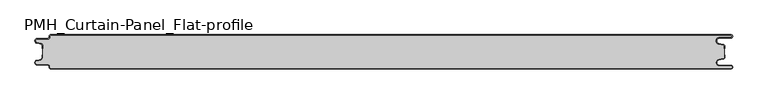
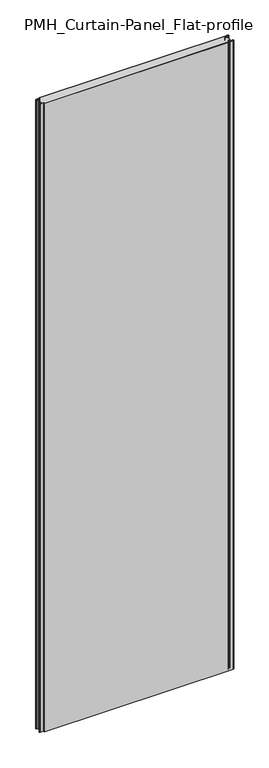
"""IFC4 building model written with IfcOpenShell, lengths in millimetres: plate geometry, PMH_Curtain-Panel_Flat-profile : ACH_PMH_Stone-wool-Panel_50M."""

from ifc_helpers import new_model, si_unit, point, frame, frame_2d, origin, origin_with_axes, place, context, project, spatial, polyline, circle_curve, trimmed, segment, composite_curve, outline, extrude, source, transform, mapped, element, save
from ifc_brep_helpers import plane_surface, cylinder_surface, revolved_surface, advanced_brep


def pmh_curtain_panel_flat_profile_783773f9(model_context):
    return source(origin(), model_context, "Body", "SolidModel", [
        advanced_brep(
        [(508.1, 0.0, 3500.0), (-487.4, 0.0, 3500.0), (-489.4, -2.0, 3500.0), (-489.4, -3.4, 3500.0), (-491.4, -5.4, 3500.0), (-506.9, -5.4, 3500.0), (-507.7098239, -12.5077322, 3500.0), (-501.5500979, -13.929817, 3500.0), (-500.0, -15.878557, 3500.0), (-500.0, -20.0, 3500.0), (-499.2, -20.0, 3500.0), (-499.2, -15.878557, 3500.0), (-501.370137, -13.1503208, 3500.0), (-507.529863, -11.728236, 3500.0), (-506.9, -6.2, 3500.0), (-491.4, -6.2, 3500.0), (-488.6, -3.4, 3500.0), (-488.6, -2.0, 3500.0), (-487.4, -0.8, 3500.0), (508.1, -0.8, 3500.0), (508.1, -4.2, 3500.0), (491.1, -4.2, 3500.0), (490.2664884, -13.7270771, 3500.0), (496.7125669, -14.8636953, 3500.0), (498.2, -16.6363492, 3500.0), (498.2, -20.0, 3500.0), (499.0, -20.0, 3500.0), (499.0, -16.6363492, 3500.0), (496.8514855, -14.0758491, 3500.0), (490.405407, -12.939231, 3500.0), (491.1, -5.0, 3500.0), (508.1, -5.0, 3500.0), (510.6, -2.5000002, 3500.0), (-487.4, 0.0, 0.0), (508.1, 0.0, 0.0), (510.6, -2.4999998, 0.0), (508.1, -5.0, 0.0), (491.1, -5.0, 0.0), (490.405407, -12.939231, 0.0), (496.8514855, -14.0758491, 0.0), (499.0, -16.6363492, 0.0), (499.0, -20.0, 0.0), (498.2, -20.0, 0.0), (498.2, -16.6363492, 0.0), (496.7125669, -14.8636953, 0.0), (490.2664884, -13.7270771, 0.0), (491.1, -4.2, 0.0), (508.1, -4.2, 0.0), (508.1, -0.8, 0.0), (-487.4, -0.8, 0.0), (-488.6, -2.0, 0.0), (-488.6, -3.4, 0.0), (-491.4, -6.2, 0.0), (-506.9, -6.2, 0.0), (-507.529863, -11.7282362, 0.0), (-501.370137, -13.150321, 0.0), (-499.2, -15.878557, 0.0), (-499.2, -20.0, 0.0), (-500.0, -20.0, 0.0), (-500.0, -15.878557, 0.0), (-501.5500978, -13.9298169, 0.0), (-507.7098239, -12.507732, 0.0), (-506.9, -5.4, 0.0), (-491.4, -5.4, 0.0), (-489.4, -3.4, 0.0), (-489.4, -2.0, 0.0)],
        [
            (0, 1),
            (1, 2, circle_curve(frame((-487.4, -2.0, 3500.0), z_axis=(0.0, 0.0, 1.0), x_axis=(1.0, 0.0, 0.0)), 2.0)),
            (2, 3),
            (3, 4, circle_curve(frame((-491.4, -3.4, 3500.0), z_axis=(0.0, 0.0, -1.0), x_axis=(1.0, 0.0, 0.0)), 2.0)),
            (4, 5),
            (5, 6, circle_curve(frame((-506.9, -9.0, 3500.0), z_axis=(0.0, 0.0, 1.0), x_axis=(1.0, 0.0, 0.0)), 3.6)),
            (6, 7),
            (7, 8, circle_curve(frame((-502.0, -15.878557, 3500.0), z_axis=(0.0, 0.0, -1.0), x_axis=(1.0, 0.0, 0.0)), 2.0)),
            (8, 9),
            (9, 10),
            (10, 11),
            (11, 12, circle_curve(frame((-502.0, -15.878557, 3500.0), z_axis=(0.0, 0.0, 1.0), x_axis=(1.0, 0.0, 0.0)), 2.8)),
            (12, 13),
            (13, 14, circle_curve(frame((-506.9, -9.0, 3500.0), z_axis=(0.0, 0.0, -1.0), x_axis=(1.0, 0.0, 0.0)), 2.8)),
            (14, 15),
            (15, 16, circle_curve(frame((-491.4, -3.4, 3500.0), z_axis=(0.0, 0.0, 1.0), x_axis=(1.0, 0.0, 0.0)), 2.8)),
            (16, 17),
            (17, 18, circle_curve(frame((-487.4, -2.0, 3500.0), z_axis=(0.0, 0.0, -1.0), x_axis=(1.0, 0.0, 0.0)), 1.2)),
            (18, 19),
            (19, 20, circle_curve(frame((508.1, -2.5, 3500.0), z_axis=(0.0, 0.0, -1.0), x_axis=(1.0, 0.0, 0.0)), 1.7)),
            (20, 21),
            (21, 22, circle_curve(frame((491.1, -9.0, 3500.0), z_axis=(0.0, 0.0, 1.0), x_axis=(1.0, 0.0, 0.0)), 4.8)),
            (22, 23),
            (23, 24, circle_curve(frame((496.4, -16.6363492, 3500.0), z_axis=(0.0, 0.0, -1.0), x_axis=(1.0, 0.0, 0.0)), 1.8)),
            (24, 25),
            (25, 26),
            (26, 27),
            (27, 28, circle_curve(frame((496.4, -16.6363492, 3500.0), z_axis=(0.0, 0.0, 1.0), x_axis=(1.0, 0.0, 0.0)), 2.6)),
            (28, 29),
            (29, 30, circle_curve(frame((491.1, -9.0, 3500.0), z_axis=(0.0, 0.0, -1.0), x_axis=(1.0, 0.0, 0.0)), 4.0)),
            (30, 31),
            (31, 32, circle_curve(frame((508.1, -2.5, 3500.0), z_axis=(0.0, 0.0, 1.0), x_axis=(1.0, 0.0, 0.0)), 2.5)),
            (32, 0, circle_curve(frame((508.1, -2.5, 3500.0), z_axis=(0.0, 0.0, 1.0), x_axis=(1.0, 0.0, 0.0)), 2.5)),
            (33, 34),
            (34, 35, circle_curve(frame((508.1, -2.5, 0.0), z_axis=(0.0, 0.0, -1.0), x_axis=(1.0, 0.0, 0.0)), 2.5)),
            (35, 36, circle_curve(frame((508.1, -2.5, 0.0), z_axis=(0.0, 0.0, -1.0), x_axis=(1.0, 0.0, 0.0)), 2.5)),
            (36, 37),
            (37, 38, circle_curve(frame((491.1, -9.0, 0.0), z_axis=(0.0, 0.0, 1.0), x_axis=(1.0, 0.0, 0.0)), 4.0)),
            (38, 39),
            (39, 40, circle_curve(frame((496.4, -16.6363492, 0.0), z_axis=(0.0, 0.0, -1.0), x_axis=(1.0, 0.0, 0.0)), 2.6)),
            (40, 41),
            (41, 42),
            (42, 43),
            (43, 44, circle_curve(frame((496.4, -16.6363492, 0.0), z_axis=(0.0, 0.0, 1.0), x_axis=(1.0, 0.0, 0.0)), 1.8)),
            (44, 45),
            (45, 46, circle_curve(frame((491.1, -9.0, 0.0), z_axis=(0.0, 0.0, -1.0), x_axis=(1.0, 0.0, 0.0)), 4.8)),
            (46, 47),
            (47, 48, circle_curve(frame((508.1, -2.5, 0.0), z_axis=(0.0, 0.0, 1.0), x_axis=(1.0, 0.0, 0.0)), 1.7)),
            (48, 49),
            (49, 50, circle_curve(frame((-487.4, -2.0, 0.0), z_axis=(0.0, 0.0, 1.0), x_axis=(1.0, 0.0, 0.0)), 1.2)),
            (50, 51),
            (51, 52, circle_curve(frame((-491.4, -3.4, 0.0), z_axis=(0.0, 0.0, -1.0), x_axis=(1.0, 0.0, 0.0)), 2.8)),
            (52, 53),
            (53, 54, circle_curve(frame((-506.9, -9.0, 0.0), z_axis=(0.0, 0.0, 1.0), x_axis=(1.0, 0.0, 0.0)), 2.8)),
            (54, 55),
            (55, 56, circle_curve(frame((-502.0, -15.878557, 0.0), z_axis=(0.0, 0.0, -1.0), x_axis=(1.0, 0.0, 0.0)), 2.8)),
            (56, 57),
            (57, 58),
            (58, 59),
            (59, 60, circle_curve(frame((-502.0, -15.878557, 0.0), z_axis=(0.0, 0.0, 1.0), x_axis=(1.0, 0.0, 0.0)), 2.0)),
            (60, 61),
            (61, 62, circle_curve(frame((-506.9, -9.0, 0.0), z_axis=(0.0, 0.0, -1.0), x_axis=(1.0, 0.0, 0.0)), 3.6)),
            (62, 63),
            (63, 64, circle_curve(frame((-491.4, -3.4, 0.0), z_axis=(0.0, 0.0, 1.0), x_axis=(1.0, 0.0, 0.0)), 2.0)),
            (64, 65),
            (65, 33, circle_curve(frame((-487.4, -2.0, 0.0), z_axis=(0.0, 0.0, -1.0), x_axis=(1.0, 0.0, 0.0)), 2.0)),
            (1, 33),
            (65, 2),
            (64, 3),
            (63, 4),
            (62, 5),
            (61, 6),
            (60, 7),
            (59, 8),
            (58, 9),
            (57, 10),
            (56, 11),
            (55, 12),
            (54, 13),
            (53, 14),
            (52, 15),
            (51, 16),
            (50, 17),
            (49, 18),
            (48, 19),
            (47, 20),
            (46, 21),
            (45, 22),
            (44, 23),
            (43, 24),
            (42, 25),
            (41, 26),
            (40, 27),
            (39, 28),
            (38, 29),
            (37, 30),
            (36, 31),
            (34, 0),
        ],
        [
            plane_surface(frame((-500.0, 0.0, 3500.0), z_axis=(0.0, 0.0, 1.0), x_axis=(0.0, 1.0, 0.0))),
            plane_surface(frame((-500.0, 0.0, 0.0), z_axis=(0.0, 0.0, -1.0), x_axis=(0.0, 1.0, 0.0))),
            cylinder_surface(frame((-487.4, -2.0, 3500.0), z_axis=(0.0, 0.0, 1.0), x_axis=(1.0, 0.0, 0.0)), 2.0),
            plane_surface(frame((-489.4, -2.0, 3500.0), z_axis=(-1.0, 0.0, 0.0), x_axis=(0.0, 0.0, -1.0))),
            revolved_surface(polyline([(-489.4, -3.4, 0.0), (-489.4, -3.4, 3500.0)]), (-491.4, -3.4, 3500.0), (0.0, 0.0, -1.0)),
            plane_surface(frame((-491.4, -5.4, 3500.0), z_axis=(0.0, 1.0, 0.0), x_axis=(0.0, 0.0, -1.0))),
            cylinder_surface(frame((-506.9, -9.0, 3500.0), z_axis=(0.0, 0.0, 1.0), x_axis=(1.0, 0.0, 0.0)), 3.6),
            plane_surface(frame((-507.7098239, -12.507732, 3500.0), z_axis=(-0.2249510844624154, -0.9743700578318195, 0.0), x_axis=(0.0, 0.0, -1.0))),
            revolved_surface(polyline([(-500.0, -15.878557, 0.0), (-500.0, -15.878557, 3500.0)]), (-502.0, -15.878557, 3500.0), (0.0, 0.0, -1.0)),
            plane_surface(frame((-500.0, -15.878557, 3500.0), z_axis=(-1.0, 0.0, 0.0), x_axis=(0.0, 0.0, -1.0))),
            plane_surface(frame((-500.0, -20.0, 3500.0), z_axis=(0.0, -1.0, 0.0), x_axis=(0.0, 0.0, -1.0))),
            plane_surface(frame((-499.2, -20.0, 3500.0), z_axis=(1.0, 0.0, 0.0), x_axis=(0.0, 0.0, -1.0))),
            cylinder_surface(frame((-502.0, -15.878557, 3500.0), z_axis=(0.0, 0.0, 1.0), x_axis=(1.0, 0.0, 0.0)), 2.8),
            plane_surface(frame((-501.370137, -13.150321, 3500.0), z_axis=(0.22495108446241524, 0.9743700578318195, 0.0), x_axis=(0.0, 0.0, -1.0))),
            revolved_surface(polyline([(-504.09999999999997, -9.0, 0.0), (-504.09999999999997, -9.0, 3500.0)]), (-506.9, -9.0, 3500.0), (0.0, 0.0, -1.0)),
            plane_surface(frame((-506.9, -6.2, 3500.0), z_axis=(0.0, -1.0, 0.0), x_axis=(0.0, 0.0, -1.0))),
            cylinder_surface(frame((-491.4, -3.4, 3500.0), z_axis=(0.0, 0.0, 1.0), x_axis=(1.0, 0.0, 0.0)), 2.8),
            plane_surface(frame((-488.6, -3.4, 3500.0), z_axis=(1.0, 0.0, 0.0), x_axis=(0.0, 0.0, -1.0))),
            revolved_surface(polyline([(-486.2, -2.0, 0.0), (-486.2, -2.0, 3500.0)]), (-487.4, -2.0, 3500.0), (0.0, 0.0, -1.0)),
            plane_surface(frame((-487.4, -0.8, 3500.0), z_axis=(0.0, -1.0, 0.0), x_axis=(0.0, 0.0, -1.0))),
            revolved_surface(polyline([(509.8, -2.5, 0.0), (509.8, -2.5, 3500.0)]), (508.1, -2.5, 3500.0), (0.0, 0.0, -1.0)),
            plane_surface(frame((508.1, -4.2, 3500.0), z_axis=(0.0, 1.0, 0.0), x_axis=(0.0, 0.0, -1.0))),
            cylinder_surface(frame((491.1, -9.0, 3500.0), z_axis=(0.0, 0.0, 1.0), x_axis=(1.0, 0.0, 0.0)), 4.8),
            plane_surface(frame((490.2664884, -13.7270771, 3500.0), z_axis=(-0.17364826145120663, -0.984807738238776, 0.0), x_axis=(0.0, 0.0, -1.0))),
            revolved_surface(polyline([(498.2, -16.6363492, 0.0), (498.2, -16.6363492, 3500.0)]), (496.4, -16.6363492, 3500.0), (0.0, 0.0, -1.0)),
            plane_surface(frame((498.2, -16.6363492, 3500.0), z_axis=(-1.0, 0.0, 0.0), x_axis=(0.0, 0.0, -1.0))),
            plane_surface(frame((498.2, -20.0, 3500.0), z_axis=(0.0, -1.0, 0.0), x_axis=(0.0, 0.0, -1.0))),
            plane_surface(frame((499.0, -20.0, 3500.0), z_axis=(1.0, 0.0, 0.0), x_axis=(0.0, 0.0, -1.0))),
            cylinder_surface(frame((496.4, -16.6363492, 3500.0), z_axis=(0.0, 0.0, 1.0), x_axis=(1.0, 0.0, 0.0)), 2.6),
            plane_surface(frame((496.8514855, -14.0758491, 3500.0), z_axis=(0.17364826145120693, 0.9848077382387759, 0.0), x_axis=(0.0, 0.0, -1.0))),
            revolved_surface(polyline([(495.1, -9.0, 0.0), (495.1, -9.0, 3500.0)]), (491.1, -9.0, 3500.0), (0.0, 0.0, -1.0)),
            plane_surface(frame((491.1, -5.0, 3500.0), z_axis=(0.0, -1.0, 0.0), x_axis=(0.0, 0.0, -1.0))),
            cylinder_surface(frame((508.1, -2.5, 3500.0), z_axis=(0.0, 0.0, 1.0), x_axis=(1.0, 0.0, 0.0)), 2.5),
            plane_surface(frame((490.5783588, 0.0, 3500.0), z_axis=(0.0, 1.0, 0.0), x_axis=(0.0, 0.0, -1.0))),
        ],
        [
            (0, [[1, 2, 3, 4, 5, 6, 7, 8, 9, 10, 11, 12, 13, 14, 15, 16, 17, 18, 19, 20, 21, 22, 23, 24, 25, 26, 27, 28, 29, 30, 31, 32, 33]]),
            (1, [[34, 35, 36, 37, 38, 39, 40, 41, 42, 43, 44, 45, 46, 47, 48, 49, 50, 51, 52, 53, 54, 55, 56, 57, 58, 59, 60, 61, 62, 63, 64, 65, 66]]),
            (2, [[-2, 67, -66, 68]]),
            (3, [[-3, -68, -65, 69]]),
            (4, [[-4, -69, -64, 70]]),
            (5, [[-5, -70, -63, 71]]),
            (6, [[-6, -71, -62, 72]]),
            (7, [[-7, -72, -61, 73]]),
            (8, [[-8, -73, -60, 74]]),
            (9, [[-9, -74, -59, 75]]),
            (10, [[-10, -75, -58, 76]]),
            (11, [[-11, -76, -57, 77]]),
            (12, [[-12, -77, -56, 78]]),
            (13, [[-13, -78, -55, 79]]),
            (14, [[-14, -79, -54, 80]]),
            (15, [[-15, -80, -53, 81]]),
            (16, [[-16, -81, -52, 82]]),
            (17, [[-17, -82, -51, 83]]),
            (18, [[-18, -83, -50, 84]]),
            (19, [[-19, -84, -49, 85]]),
            (20, [[-20, -85, -48, 86]]),
            (21, [[-21, -86, -47, 87]]),
            (22, [[-22, -87, -46, 88]]),
            (23, [[-23, -88, -45, 89]]),
            (24, [[-24, -89, -44, 90]]),
            (25, [[-25, -90, -43, 91]]),
            (26, [[-26, -91, -42, 92]]),
            (27, [[-27, -92, -41, 93]]),
            (28, [[-28, -93, -40, 94]]),
            (29, [[-29, -94, -39, 95]]),
            (30, [[-30, -95, -38, 96]]),
            (31, [[-31, -96, -37, 97]]),
            (32, [[-97, -36, -35, 98, -33, -32]]),
            (33, [[-1, -98, -34, -67]]),
        ],
    ),
        extrude(outline(composite_curve([segment(polyline([(-499.2, -34.1214426), (-499.2, -15.8785573)]), True, "CONTINUOUS"), segment(trimmed(circle_curve(frame_2d((-502.0, -15.8785573)), 2.8), [point((-499.2, -15.8785573))], [point((-501.370137, -13.1503212))], True, "CARTESIAN"), True, "CONTINUOUS"), segment(polyline([(-501.370137, -13.1503212), (-507.5298631, -11.7282362)]), True, "CONTINUOUS"), segment(trimmed(circle_curve(frame_2d((-506.9, -9.0)), 2.8), [point((-507.5298631, -11.7282362))], [point((-506.9, -6.2))], False, "CARTESIAN"), True, "CONTINUOUS"), segment(polyline([(-506.9, -6.2), (-491.4000001, -6.2)]), True, "CONTINUOUS"), segment(trimmed(circle_curve(frame_2d((-491.4000001, -3.4)), 2.8), [point((-491.4000001, -6.2))], [point((-488.6000001, -3.4))], True, "CARTESIAN"), True, "CONTINUOUS"), segment(polyline([(-488.6000001, -3.4), (-488.6000001, -2.0)]), True, "CONTINUOUS"), segment(trimmed(circle_curve(frame_2d((-487.4000001, -2.0)), 1.2), [point((-488.6000001, -2.0))], [point((-487.4000001, -0.8))], False, "CARTESIAN"), True, "CONTINUOUS"), segment(polyline([(-487.4000001, -0.8), (508.1, -0.8)]), True, "CONTINUOUS"), segment(trimmed(circle_curve(frame_2d((508.1, -2.5)), 1.7), [point((508.1, -0.8))], [point((508.1, -4.2))], False, "CARTESIAN"), True, "CONTINUOUS"), segment(polyline([(508.1, -4.2), (491.1, -4.2)]), True, "CONTINUOUS"), segment(trimmed(circle_curve(frame_2d((491.1, -9.0)), 4.8), [point((491.1, -4.2))], [point((490.2664883, -13.7270771))], True, "CARTESIAN"), True, "CONTINUOUS"), segment(polyline([(490.2664883, -13.7270771), (496.7125668, -14.8636953)]), True, "CONTINUOUS"), segment(trimmed(circle_curve(frame_2d((496.4, -16.6363492)), 1.8), [point((496.7125668, -14.8636953))], [point((498.2, -16.6363492))], False, "CARTESIAN"), True, "CONTINUOUS"), segment(polyline([(498.2, -16.6363492), (498.2, -33.3636508)]), True, "CONTINUOUS"), segment(trimmed(circle_curve(frame_2d((496.4, -33.3636508)), 1.8), [point((498.2, -33.3636508))], [point((496.7125668, -35.1363047))], False, "CARTESIAN"), True, "CONTINUOUS"), segment(polyline([(496.7125668, -35.1363047), (490.2664883, -36.2729229)]), True, "CONTINUOUS"), segment(trimmed(circle_curve(frame_2d((491.1, -41.0)), 4.8), [point((490.2664883, -36.2729229))], [point((491.1, -45.8))], True, "CARTESIAN"), True, "CONTINUOUS"), segment(polyline([(491.1, -45.8), (508.1, -45.8)]), True, "CONTINUOUS"), segment(trimmed(circle_curve(frame_2d((508.1, -47.5)), 1.7), [point((508.1, -45.8))], [point((508.1, -49.2))], False, "CARTESIAN"), True, "CONTINUOUS"), segment(polyline([(508.1, -49.2), (-487.4000001, -49.2)]), True, "CONTINUOUS"), segment(trimmed(circle_curve(frame_2d((-487.4000001, -48.0)), 1.2), [point((-487.4000001, -49.2))], [point((-488.6000001, -48.0))], False, "CARTESIAN"), True, "CONTINUOUS"), segment(polyline([(-488.6000001, -48.0), (-488.6000001, -46.6)]), True, "CONTINUOUS"), segment(trimmed(circle_curve(frame_2d((-491.4000001, -46.6)), 2.8), [point((-488.6000001, -46.6))], [point((-491.4000001, -43.8))], True, "CARTESIAN"), True, "CONTINUOUS"), segment(polyline([(-491.4000001, -43.8), (-506.9, -43.8)]), True, "CONTINUOUS"), segment(trimmed(circle_curve(frame_2d((-506.9, -41.0)), 2.8), [point((-506.9, -43.8))], [point((-507.5298631, -38.2717638))], False, "CARTESIAN"), True, "CONTINUOUS"), segment(polyline([(-507.5298631, -38.2717638), (-501.370137, -36.8496788)]), True, "CONTINUOUS"), segment(trimmed(circle_curve(frame_2d((-502.0, -34.1214426)), 2.8), [point((-501.370137, -36.8496788))], [point((-499.2, -34.1214426))], True, "CARTESIAN"), True, "CONTINUOUS")], self_intersect=False)), origin_with_axes(), (0.0, 0.0, 1.0), 3500.0),
        advanced_brep(
        [(-487.4, -50.0, 3500.0), (508.1, -50.0, 3500.0), (510.6, -47.5000002, 3500.0), (508.1, -45.0, 3500.0), (491.1, -45.0, 3500.0), (490.405407, -37.060769, 3500.0), (496.8514855, -35.9241509, 3500.0), (499.0, -33.3636508, 3500.0), (499.0, -30.0, 3500.0), (498.2, -30.0, 3500.0), (498.2, -33.3636508, 3500.0), (496.7125669, -35.1363047, 3500.0), (490.2664884, -36.2729229, 3500.0), (491.1, -45.8, 3500.0), (508.1, -45.8, 3500.0), (508.1, -49.2, 3500.0), (-487.4, -49.2, 3500.0), (-488.6, -48.0, 3500.0), (-488.6, -46.6, 3500.0), (-491.4, -43.8, 3500.0), (-506.9, -43.8, 3500.0), (-507.529863, -38.2717638, 3500.0), (-501.370137, -36.849679, 3500.0), (-499.2, -34.121443, 3500.0), (-499.2, -30.0, 3500.0), (-500.0, -30.0, 3500.0), (-500.0, -34.121443, 3500.0), (-501.5500978, -36.0701831, 3500.0), (-507.7098239, -37.492268, 3500.0), (-506.9, -44.6, 3500.0), (-491.4, -44.6, 3500.0), (-489.4, -46.6, 3500.0), (-489.4, -48.0, 3500.0), (508.1, -50.0, 0.0), (-487.4, -50.0, 0.0), (-489.4, -48.0, 0.0), (-489.4, -46.6, 0.0), (-491.4, -44.6, 0.0), (-506.9, -44.6, 0.0), (-507.7098239, -37.4922678, 0.0), (-501.5500979, -36.070183, 0.0), (-500.0, -34.121443, 0.0), (-500.0, -30.0, 0.0), (-499.2, -30.0, 0.0), (-499.2, -34.121443, 0.0), (-501.370137, -36.8496792, 0.0), (-507.529863, -38.271764, 0.0), (-506.9, -43.8, 0.0), (-491.4, -43.8, 0.0), (-488.6, -46.6, 0.0), (-488.6, -48.0, 0.0), (-487.4, -49.2, 0.0), (508.1, -49.2, 0.0), (508.1, -45.8, 0.0), (491.1, -45.8, 0.0), (490.2664884, -36.2729229, 0.0), (496.7125669, -35.1363047, 0.0), (498.2, -33.3636508, 0.0), (498.2, -30.0, 0.0), (499.0, -30.0, 0.0), (499.0, -33.3636508, 0.0), (496.8514855, -35.9241509, 0.0), (490.405407, -37.060769, 0.0), (491.1, -45.0, 0.0), (508.1, -45.0, 0.0), (510.6, -47.4999998, 0.0)],
        [
            (0, 1),
            (1, 2, circle_curve(frame((508.1, -47.5, 3500.0), z_axis=(0.0, 0.0, 1.0), x_axis=(1.0, 0.0, 0.0)), 2.5)),
            (2, 3, circle_curve(frame((508.1, -47.5, 3500.0), z_axis=(0.0, 0.0, 1.0), x_axis=(1.0, 0.0, 0.0)), 2.5)),
            (3, 4),
            (4, 5, circle_curve(frame((491.1, -41.0, 3500.0), z_axis=(0.0, 0.0, -1.0), x_axis=(1.0, 0.0, 0.0)), 4.0)),
            (5, 6),
            (6, 7, circle_curve(frame((496.4, -33.3636508, 3500.0), z_axis=(0.0, 0.0, 1.0), x_axis=(1.0, 0.0, 0.0)), 2.6)),
            (7, 8),
            (8, 9),
            (9, 10),
            (10, 11, circle_curve(frame((496.4, -33.3636508, 3500.0), z_axis=(0.0, 0.0, -1.0), x_axis=(1.0, 0.0, 0.0)), 1.8)),
            (11, 12),
            (12, 13, circle_curve(frame((491.1, -41.0, 3500.0), z_axis=(0.0, 0.0, 1.0), x_axis=(1.0, 0.0, 0.0)), 4.8)),
            (13, 14),
            (14, 15, circle_curve(frame((508.1, -47.5, 3500.0), z_axis=(0.0, 0.0, -1.0), x_axis=(1.0, 0.0, 0.0)), 1.7)),
            (15, 16),
            (16, 17, circle_curve(frame((-487.4, -48.0, 3500.0), z_axis=(0.0, 0.0, -1.0), x_axis=(1.0, 0.0, 0.0)), 1.2)),
            (17, 18),
            (18, 19, circle_curve(frame((-491.4, -46.6, 3500.0), z_axis=(0.0, 0.0, 1.0), x_axis=(1.0, 0.0, 0.0)), 2.8)),
            (19, 20),
            (20, 21, circle_curve(frame((-506.9, -41.0, 3500.0), z_axis=(0.0, 0.0, -1.0), x_axis=(1.0, 0.0, 0.0)), 2.8)),
            (21, 22),
            (22, 23, circle_curve(frame((-502.0, -34.121443, 3500.0), z_axis=(0.0, 0.0, 1.0), x_axis=(1.0, 0.0, 0.0)), 2.8)),
            (23, 24),
            (24, 25),
            (25, 26),
            (26, 27, circle_curve(frame((-502.0, -34.121443, 3500.0), z_axis=(0.0, 0.0, -1.0), x_axis=(1.0, 0.0, 0.0)), 2.0)),
            (27, 28),
            (28, 29, circle_curve(frame((-506.9, -41.0, 3500.0), z_axis=(0.0, 0.0, 1.0), x_axis=(1.0, 0.0, 0.0)), 3.6)),
            (29, 30),
            (30, 31, circle_curve(frame((-491.4, -46.6, 3500.0), z_axis=(0.0, 0.0, -1.0), x_axis=(1.0, 0.0, 0.0)), 2.0)),
            (31, 32),
            (32, 0, circle_curve(frame((-487.4, -48.0, 3500.0), z_axis=(0.0, 0.0, 1.0), x_axis=(1.0, 0.0, 0.0)), 2.0)),
            (33, 34),
            (34, 35, circle_curve(frame((-487.4, -48.0, 0.0), z_axis=(0.0, 0.0, -1.0), x_axis=(1.0, 0.0, 0.0)), 2.0)),
            (35, 36),
            (36, 37, circle_curve(frame((-491.4, -46.6, 0.0), z_axis=(0.0, 0.0, 1.0), x_axis=(1.0, 0.0, 0.0)), 2.0)),
            (37, 38),
            (38, 39, circle_curve(frame((-506.9, -41.0, 0.0), z_axis=(0.0, 0.0, -1.0), x_axis=(1.0, 0.0, 0.0)), 3.6)),
            (39, 40),
            (40, 41, circle_curve(frame((-502.0, -34.121443, 0.0), z_axis=(0.0, 0.0, 1.0), x_axis=(1.0, 0.0, 0.0)), 2.0)),
            (41, 42),
            (42, 43),
            (43, 44),
            (44, 45, circle_curve(frame((-502.0, -34.121443, 0.0), z_axis=(0.0, 0.0, -1.0), x_axis=(1.0, 0.0, 0.0)), 2.8)),
            (45, 46),
            (46, 47, circle_curve(frame((-506.9, -41.0, 0.0), z_axis=(0.0, 0.0, 1.0), x_axis=(1.0, 0.0, 0.0)), 2.8)),
            (47, 48),
            (48, 49, circle_curve(frame((-491.4, -46.6, 0.0), z_axis=(0.0, 0.0, -1.0), x_axis=(1.0, 0.0, 0.0)), 2.8)),
            (49, 50),
            (50, 51, circle_curve(frame((-487.4, -48.0, 0.0), z_axis=(0.0, 0.0, 1.0), x_axis=(1.0, 0.0, 0.0)), 1.2)),
            (51, 52),
            (52, 53, circle_curve(frame((508.1, -47.5, 0.0), z_axis=(0.0, 0.0, 1.0), x_axis=(1.0, 0.0, 0.0)), 1.7)),
            (53, 54),
            (54, 55, circle_curve(frame((491.1, -41.0, 0.0), z_axis=(0.0, 0.0, -1.0), x_axis=(1.0, 0.0, 0.0)), 4.8)),
            (55, 56),
            (56, 57, circle_curve(frame((496.4, -33.3636508, 0.0), z_axis=(0.0, 0.0, 1.0), x_axis=(1.0, 0.0, 0.0)), 1.8)),
            (57, 58),
            (58, 59),
            (59, 60),
            (60, 61, circle_curve(frame((496.4, -33.3636508, 0.0), z_axis=(0.0, 0.0, -1.0), x_axis=(1.0, 0.0, 0.0)), 2.6)),
            (61, 62),
            (62, 63, circle_curve(frame((491.1, -41.0, 0.0), z_axis=(0.0, 0.0, 1.0), x_axis=(1.0, 0.0, 0.0)), 4.0)),
            (63, 64),
            (64, 65, circle_curve(frame((508.1, -47.5, 0.0), z_axis=(0.0, 0.0, -1.0), x_axis=(1.0, 0.0, 0.0)), 2.5)),
            (65, 33, circle_curve(frame((508.1, -47.5, 0.0), z_axis=(0.0, 0.0, -1.0), x_axis=(1.0, 0.0, 0.0)), 2.5)),
            (0, 34),
            (33, 1),
            (64, 3),
            (63, 4),
            (62, 5),
            (61, 6),
            (60, 7),
            (59, 8),
            (58, 9),
            (57, 10),
            (56, 11),
            (55, 12),
            (54, 13),
            (53, 14),
            (52, 15),
            (51, 16),
            (50, 17),
            (49, 18),
            (48, 19),
            (47, 20),
            (46, 21),
            (45, 22),
            (44, 23),
            (43, 24),
            (42, 25),
            (41, 26),
            (40, 27),
            (39, 28),
            (38, 29),
            (37, 30),
            (36, 31),
            (35, 32),
        ],
        [
            plane_surface(frame((-500.0, -50.0, 3500.0), z_axis=(0.0, 0.0, 1.0), x_axis=(0.0, 1.0, 0.0))),
            plane_surface(frame((-500.0, -50.0, 0.0), z_axis=(0.0, 0.0, -1.0), x_axis=(0.0, 1.0, 0.0))),
            plane_surface(frame((490.5783588, -50.0, 3500.0), z_axis=(0.0, -1.0, 0.0), x_axis=(0.0, 0.0, -1.0))),
            cylinder_surface(frame((508.1, -47.5, 3500.0), z_axis=(0.0, 0.0, 1.0), x_axis=(1.0, 0.0, 0.0)), 2.5),
            plane_surface(frame((508.1, -45.0, 3500.0), z_axis=(0.0, 1.0, 0.0), x_axis=(0.0, 0.0, -1.0))),
            revolved_surface(polyline([(495.1, -41.0, 0.0), (495.1, -41.0, 3500.0)]), (491.1, -41.0, 3500.0), (0.0, 0.0, -1.0)),
            plane_surface(frame((490.405407, -37.060769, 3500.0), z_axis=(0.17364826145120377, -0.9848077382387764, 0.0), x_axis=(0.0, 0.0, -1.0))),
            cylinder_surface(frame((496.4, -33.3636508, 3500.0), z_axis=(0.0, 0.0, 1.0), x_axis=(1.0, 0.0, 0.0)), 2.6),
            plane_surface(frame((499.0, -33.3636508, 3500.0), z_axis=(1.0, 0.0, 0.0), x_axis=(0.0, 0.0, -1.0))),
            plane_surface(frame((499.0, -30.0, 3500.0), z_axis=(0.0, 1.0, 0.0), x_axis=(0.0, 0.0, -1.0))),
            plane_surface(frame((498.2, -30.0, 3500.0), z_axis=(-1.0, 0.0, 0.0), x_axis=(0.0, 0.0, -1.0))),
            revolved_surface(polyline([(498.2, -33.3636508, 0.0), (498.2, -33.3636508, 3500.0)]), (496.4, -33.3636508, 3500.0), (0.0, 0.0, -1.0)),
            plane_surface(frame((496.7125669, -35.1363047, 3500.0), z_axis=(-0.17364826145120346, 0.9848077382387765, 0.0), x_axis=(0.0, 0.0, -1.0))),
            cylinder_surface(frame((491.1, -41.0, 3500.0), z_axis=(0.0, 0.0, 1.0), x_axis=(1.0, 0.0, 0.0)), 4.8),
            plane_surface(frame((491.1, -45.8, 3500.0), z_axis=(0.0, -1.0, 0.0), x_axis=(0.0, 0.0, -1.0))),
            revolved_surface(polyline([(509.8, -47.5, 0.0), (509.8, -47.5, 3500.0)]), (508.1, -47.5, 3500.0), (0.0, 0.0, -1.0)),
            plane_surface(frame((508.1, -49.2, 3500.0), z_axis=(0.0, 1.0, 0.0), x_axis=(0.0, 0.0, -1.0))),
            revolved_surface(polyline([(-486.2, -48.0, 0.0), (-486.2, -48.0, 3500.0)]), (-487.4, -48.0, 3500.0), (0.0, 0.0, -1.0)),
            plane_surface(frame((-488.6, -48.0, 3500.0), z_axis=(1.0, 0.0, 0.0), x_axis=(0.0, 0.0, -1.0))),
            cylinder_surface(frame((-491.4, -46.6, 3500.0), z_axis=(0.0, 0.0, 1.0), x_axis=(1.0, 0.0, 0.0)), 2.8),
            plane_surface(frame((-491.4, -43.8, 3500.0), z_axis=(0.0, 1.0, 0.0), x_axis=(0.0, 0.0, -1.0))),
            revolved_surface(polyline([(-504.09999999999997, -41.0, 0.0), (-504.09999999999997, -41.0, 3500.0)]), (-506.9, -41.0, 3500.0), (0.0, 0.0, -1.0)),
            plane_surface(frame((-507.529863, -38.271764, 3500.0), z_axis=(0.2249510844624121, -0.9743700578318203, 0.0), x_axis=(0.0, 0.0, -1.0))),
            cylinder_surface(frame((-502.0, -34.121443, 3500.0), z_axis=(0.0, 0.0, 1.0), x_axis=(1.0, 0.0, 0.0)), 2.8),
            plane_surface(frame((-499.2, -34.121443, 3500.0), z_axis=(1.0, 0.0, 0.0), x_axis=(0.0, 0.0, -1.0))),
            plane_surface(frame((-499.2, -30.0, 3500.0), z_axis=(0.0, 1.0, 0.0), x_axis=(0.0, 0.0, -1.0))),
            plane_surface(frame((-500.0, -30.0, 3500.0), z_axis=(-1.0, 0.0, 0.0), x_axis=(0.0, 0.0, -1.0))),
            revolved_surface(polyline([(-500.0, -34.121443, 0.0), (-500.0, -34.121443, 3500.0)]), (-502.0, -34.121443, 3500.0), (0.0, 0.0, -1.0)),
            plane_surface(frame((-501.5500979, -36.070183, 3500.0), z_axis=(-0.22495108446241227, 0.9743700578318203, 0.0), x_axis=(0.0, 0.0, -1.0))),
            cylinder_surface(frame((-506.9, -41.0, 3500.0), z_axis=(0.0, 0.0, 1.0), x_axis=(1.0, 0.0, 0.0)), 3.6),
            plane_surface(frame((-506.9, -44.6, 3500.0), z_axis=(0.0, -1.0, 0.0), x_axis=(0.0, 0.0, -1.0))),
            revolved_surface(polyline([(-489.4, -46.6, 0.0), (-489.4, -46.6, 3500.0)]), (-491.4, -46.6, 3500.0), (0.0, 0.0, -1.0)),
            plane_surface(frame((-489.4, -46.6, 3500.0), z_axis=(-1.0, 0.0, 0.0), x_axis=(0.0, 0.0, -1.0))),
            cylinder_surface(frame((-487.4, -48.0, 3500.0), z_axis=(0.0, 0.0, 1.0), x_axis=(1.0, 0.0, 0.0)), 2.0),
        ],
        [
            (0, [[1, 2, 3, 4, 5, 6, 7, 8, 9, 10, 11, 12, 13, 14, 15, 16, 17, 18, 19, 20, 21, 22, 23, 24, 25, 26, 27, 28, 29, 30, 31, 32, 33]]),
            (1, [[34, 35, 36, 37, 38, 39, 40, 41, 42, 43, 44, 45, 46, 47, 48, 49, 50, 51, 52, 53, 54, 55, 56, 57, 58, 59, 60, 61, 62, 63, 64, 65, 66]]),
            (2, [[-1, 67, -34, 68]]),
            (3, [[-68, -66, -65, 69, -3, -2]]),
            (4, [[-4, -69, -64, 70]]),
            (5, [[-5, -70, -63, 71]]),
            (6, [[-6, -71, -62, 72]]),
            (7, [[-7, -72, -61, 73]]),
            (8, [[-8, -73, -60, 74]]),
            (9, [[-9, -74, -59, 75]]),
            (10, [[-10, -75, -58, 76]]),
            (11, [[-11, -76, -57, 77]]),
            (12, [[-12, -77, -56, 78]]),
            (13, [[-13, -78, -55, 79]]),
            (14, [[-14, -79, -54, 80]]),
            (15, [[-15, -80, -53, 81]]),
            (16, [[-16, -81, -52, 82]]),
            (17, [[-17, -82, -51, 83]]),
            (18, [[-18, -83, -50, 84]]),
            (19, [[-19, -84, -49, 85]]),
            (20, [[-20, -85, -48, 86]]),
            (21, [[-21, -86, -47, 87]]),
            (22, [[-22, -87, -46, 88]]),
            (23, [[-23, -88, -45, 89]]),
            (24, [[-24, -89, -44, 90]]),
            (25, [[-25, -90, -43, 91]]),
            (26, [[-26, -91, -42, 92]]),
            (27, [[-27, -92, -41, 93]]),
            (28, [[-28, -93, -40, 94]]),
            (29, [[-29, -94, -39, 95]]),
            (30, [[-30, -95, -38, 96]]),
            (31, [[-31, -96, -37, 97]]),
            (32, [[-32, -97, -36, 98]]),
            (33, [[-33, -98, -35, -67]]),
        ],
    ),
    ])


if __name__ == "__main__":
    model = new_model("IFC4")
    model_context = context("Model", 3, world=origin())
    ifc_project = project(units=[si_unit("LENGTHUNIT", "METRE", prefix="MILLI")], contexts=[model_context])
    site = spatial("IfcSite", under=ifc_project)
    building = spatial("IfcBuilding", under=site)
    placement = place(None, origin())
    pmh_curtain_panel_flat_profile_shape = pmh_curtain_panel_flat_profile_783773f9(model_context)
    element("IfcPlate", 1, ObjectType="PMH_Curtain-Panel_Flat-profile : ACH_PMH_Stone-wool-Panel_50M", at=placement, inside=building, context=model_context, shape_type="MappedRepresentation", body=[
        mapped(pmh_curtain_panel_flat_profile_shape, transform((0.0, 0.0, 0.0), x_axis=(1.0, 0.0, 0.0), y_axis=(0.0, 1.0, 0.0), z_axis=(0.0, 0.0, 1.0))),
    ])
    save(model, "model.ifc")
